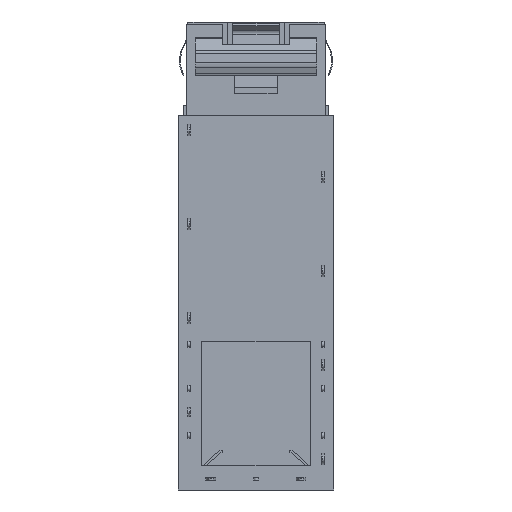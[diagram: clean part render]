
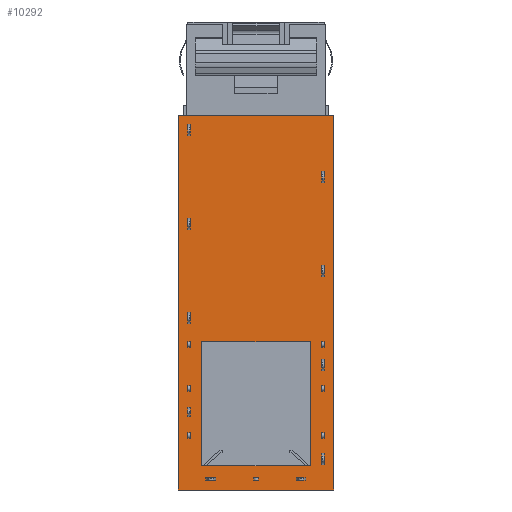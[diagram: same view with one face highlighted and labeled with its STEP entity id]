
A CAD part, front view. The second image highlights one B-rep face of the part: STEP entity #10292.
In plain terms, the highlighted planar face has unit normal (0, -1, 0).
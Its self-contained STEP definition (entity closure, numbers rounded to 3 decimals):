
#196 = DIRECTION ( 'NONE',  ( -1., 0., 0. ) ) ;
#273 = VECTOR ( 'NONE', #3414, 1000. ) ;
#481 = LINE ( 'NONE', #14220, #3936 ) ;
#553 = ORIENTED_EDGE ( 'NONE', *, *, #3724, .T. ) ;
#607 = LINE ( 'NONE', #7940, #6126 ) ;
#1287 = VECTOR ( 'NONE', #10477, 1000. ) ;
#1619 = FACE_OUTER_BOUND ( 'NONE', #2361, .T. ) ;
#1733 = DIRECTION ( 'NONE',  ( 0., -1., 0. ) ) ;
#1746 = CARTESIAN_POINT ( 'NONE',  ( -8.25, -0.5, -49.8 ) ) ;
#1925 = ORIENTED_EDGE ( 'NONE', *, *, #7598, .T. ) ;
#2125 = ORIENTED_EDGE ( 'NONE', *, *, #11080, .F. ) ;
#2162 = DIRECTION ( 'NONE',  ( 0., 0., -1. ) ) ;
#2361 = EDGE_LOOP ( 'NONE', ( #1925, #8083, #553, #14481 ) ) ;
#2414 = DIRECTION ( 'NONE',  ( 0., 0., 1. ) ) ;
#2629 = AXIS2_PLACEMENT_3D ( 'NONE', #4360, #1733, #10205 ) ;
#3246 = DIRECTION ( 'NONE',  ( 1., 0., 0. ) ) ;
#3279 = EDGE_CURVE ( 'NONE', #15242, #10969, #7290, .T. ) ;
#3414 = DIRECTION ( 'NONE',  ( -1., 0., 0. ) ) ;
#3582 = VERTEX_POINT ( 'NONE', #12275 ) ;
#3634 = CARTESIAN_POINT ( 'NONE',  ( -5.75, -0.5, -47.2 ) ) ;
#3724 = EDGE_CURVE ( 'NONE', #10276, #3582, #7746, .T. ) ;
#3936 = VECTOR ( 'NONE', #3246, 1000. ) ;
#4360 = CARTESIAN_POINT ( 'NONE',  ( 0., -0.5, 0. ) ) ;
#4524 = DIRECTION ( 'NONE',  ( 1., 0., 0. ) ) ;
#4672 = LINE ( 'NONE', #11108, #10704 ) ;
#5059 = EDGE_CURVE ( 'NONE', #14872, #15242, #481, .T. ) ;
#5309 = ORIENTED_EDGE ( 'NONE', *, *, #10452, .F. ) ;
#5996 = LINE ( 'NONE', #1746, #12019 ) ;
#6126 = VECTOR ( 'NONE', #2162, 1000. ) ;
#6701 = LINE ( 'NONE', #14226, #273 ) ;
#7169 = EDGE_LOOP ( 'NONE', ( #15489, #5309, #2125, #13583 ) ) ;
#7288 = CARTESIAN_POINT ( 'NONE',  ( 5.75, -0.5, -34. ) ) ;
#7290 = LINE ( 'NONE', #14449, #12929 ) ;
#7475 = DIRECTION ( 'NONE',  ( 0., 0., -1. ) ) ;
#7598 = EDGE_CURVE ( 'NONE', #12127, #9302, #607, .T. ) ;
#7746 = LINE ( 'NONE', #14169, #1287 ) ;
#7798 = EDGE_CURVE ( 'NONE', #3582, #12127, #11381, .T. ) ;
#7884 = PLANE ( 'NONE',  #2629 ) ;
#7940 = CARTESIAN_POINT ( 'NONE',  ( -8.25, -0.5, -10. ) ) ;
#8083 = ORIENTED_EDGE ( 'NONE', *, *, #9946, .T. ) ;
#9302 = VERTEX_POINT ( 'NONE', #12325 ) ;
#9749 = VERTEX_POINT ( 'NONE', #13390 ) ;
#9896 = CARTESIAN_POINT ( 'NONE',  ( -8.25, -0.5, -10. ) ) ;
#9946 = EDGE_CURVE ( 'NONE', #9302, #10276, #5996, .T. ) ;
#10205 = DIRECTION ( 'NONE',  ( 0., 0., -1. ) ) ;
#10276 = VERTEX_POINT ( 'NONE', #15204 ) ;
#10292 = ADVANCED_FACE ( 'NONE', ( #1619, #14474 ), #7884, .T. ) ;
#10452 = EDGE_CURVE ( 'NONE', #9749, #14872, #4672, .T. ) ;
#10477 = DIRECTION ( 'NONE',  ( 0., 0., 1. ) ) ;
#10704 = VECTOR ( 'NONE', #7475, 1000. ) ;
#10969 = VERTEX_POINT ( 'NONE', #7288 ) ;
#11080 = EDGE_CURVE ( 'NONE', #10969, #9749, #6701, .T. ) ;
#11108 = CARTESIAN_POINT ( 'NONE',  ( -5.75, -0.5, -34. ) ) ;
#11381 = LINE ( 'NONE', #9896, #14972 ) ;
#12019 = VECTOR ( 'NONE', #4524, 1000. ) ;
#12127 = VERTEX_POINT ( 'NONE', #13509 ) ;
#12275 = CARTESIAN_POINT ( 'NONE',  ( 8.25, -0.5, -10. ) ) ;
#12325 = CARTESIAN_POINT ( 'NONE',  ( -8.25, -0.5, -49.8 ) ) ;
#12929 = VECTOR ( 'NONE', #2414, 1000. ) ;
#13390 = CARTESIAN_POINT ( 'NONE',  ( -5.75, -0.5, -34. ) ) ;
#13509 = CARTESIAN_POINT ( 'NONE',  ( -8.25, -0.5, -10. ) ) ;
#13583 = ORIENTED_EDGE ( 'NONE', *, *, #3279, .F. ) ;
#13696 = CARTESIAN_POINT ( 'NONE',  ( 5.75, -0.5, -47.2 ) ) ;
#14169 = CARTESIAN_POINT ( 'NONE',  ( 8.25, -0.5, -10. ) ) ;
#14220 = CARTESIAN_POINT ( 'NONE',  ( -5.75, -0.5, -47.2 ) ) ;
#14226 = CARTESIAN_POINT ( 'NONE',  ( -5.75, -0.5, -34. ) ) ;
#14449 = CARTESIAN_POINT ( 'NONE',  ( 5.75, -0.5, -34. ) ) ;
#14474 = FACE_BOUND ( 'NONE', #7169, .T. ) ;
#14481 = ORIENTED_EDGE ( 'NONE', *, *, #7798, .T. ) ;
#14872 = VERTEX_POINT ( 'NONE', #3634 ) ;
#14972 = VECTOR ( 'NONE', #196, 1000. ) ;
#15204 = CARTESIAN_POINT ( 'NONE',  ( 8.25, -0.5, -49.8 ) ) ;
#15242 = VERTEX_POINT ( 'NONE', #13696 ) ;
#15489 = ORIENTED_EDGE ( 'NONE', *, *, #5059, .F. ) ;
